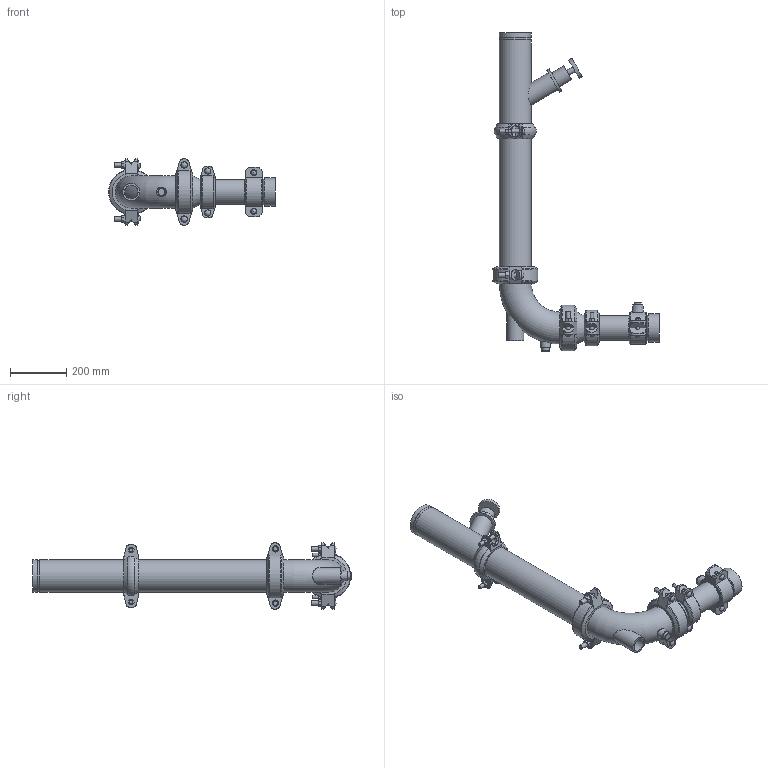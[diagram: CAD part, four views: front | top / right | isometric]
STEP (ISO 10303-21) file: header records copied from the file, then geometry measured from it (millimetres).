
FILE_DESCRIPTION(/* description */ ('VIC RVI SINGLE COIL AHU DROP LOW PROFILE SERIES 385I (OGSxFPT)','CAx-IF Rec.Pracs.---Representation and Presentation of Product Manufacturing Information (PMI)---4.0---2014-10-13'),/* implementation_level */ '2;1');
FILE_NAME(/* name */ 'C:\Users\kkamble\AppData\Roaming\Autodesk\ApplicationPlugins\Victaulic.Temp\A812\Victaulic_IPS_RVI_Single Coil_Low Profile_Series 385I (OGSxFPT)_04.0x03.0 (100x80).stp',/* time_stamp */ '2021-03-17T13:02:28+06:00',/* author */ ('Vjadhav'),/* organization */ ('Victaulic'),/* preprocessor_version */ 'ST-DEVELOPER v17.2',/* originating_system */ 'Autodesk Inventor 2019',/* authorisation */ '');
FILE_SCHEMA (('AP242_MANAGED_MODEL_BASED_3D_ENGINEERING_MIM_LF { 1 0 10303 442 1 1 4 }'));
Length unit declared in the file: inch
Products named in the file (11): 385I-04.0x03.0; 080-03.0; 072-03.0x0.75; Pipe_1-03.0; 177N-03.0; 050-04.0x03.0; 100G-04.0; 177N-04.0; Pipe_(1'-2 3/4")-04.0; 107N-04.0; 789-04.0
Assembly tree (11 placements, depth 2):
  385I-04.0x03.0
    080-03.0
    072-03.0x0.75
    Pipe_1-03.0
    177N-03.0
    050-04.0x03.0
    177N-04.0  x2
    100G-04.0
    Pipe_(1'-2 3/4")-04.0
    107N-04.0
    789-04.0
Bounding box: 595.08 x 1136.65 x 237.12 mm (x, y, z)
Volume: 6279024.7 mm3; surface area: 1487717.4 mm2
Topology: 11 solids, 11 shells, 595 faces, 1609 edges, 1077 vertices
Faces by surface type: plane 312, cylinder 202, torus 30, cone 24, bspline 19, sphere 8
Full cylindrical faces by diameter (mm): 10.16 x4, 12.7 x6, 14.605 x2, 15.875 x4, 19.05 x1, 20.93 x2, 21.59 x2, 22.225 x4, 23.495 x4, 26.67 x3, 34.29 x1, 48.26 x1, 57.15 x1, 60.96 x1, 69.85 x1, 76.2 x2, 77.927 x3, 84.938 x4, 88.9 x11, 92.05 x1, 101.6 x4, 102.26 x5, 110.084 x7, 114.3 x16
Entity records: 18361 total; most frequent: CARTESIAN_POINT 4165, DIRECTION 2896, ORIENTED_EDGE 2738, EDGE_CURVE 1369, AXIS2_PLACEMENT_3D 1111, VERTEX_POINT 915, LINE 674, VECTOR 674
